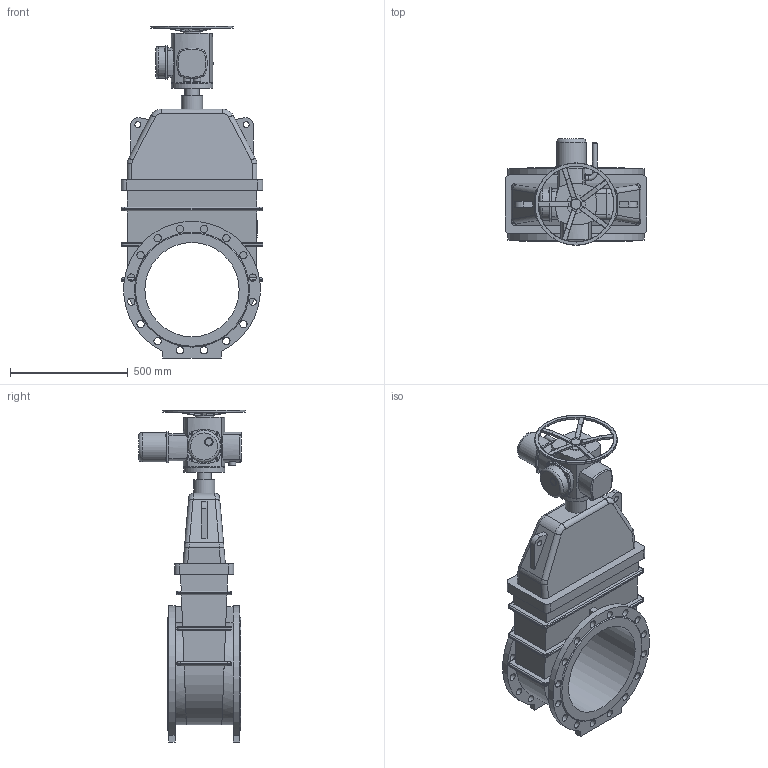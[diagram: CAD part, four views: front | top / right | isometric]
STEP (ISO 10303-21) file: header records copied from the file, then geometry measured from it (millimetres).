
FILE_DESCRIPTION(('STEP AP203'), '1');
FILE_NAME('青溻桄赅 47GVA DN400 PN16+MT903.Z30', '', ('UNSPECIFIED'), ('UNSPECIFIED'), 'ASCON STEP Converter 1.6', 'ASCON Math Kernel', '');
FILE_SCHEMA(('CONFIG_CONTROL_DESIGN'));
Length unit declared in the file: millimetre
Bounding box: 600 x 453 x 1409 mm (x, y, z)
Volume: 87088012.6 mm3; surface area: 3081801.4 mm2
Topology: 2 solids, 2 shells, 546 faces, 1326 edges, 819 vertices
Faces by surface type: cylinder 262, plane 218, bspline 34, torus 25, cone 7
Full cylindrical faces by diameter (mm): 10 x8, 13.835 x4, 18 x4, 20 x2, 25 x2, 29.22 x1, 30 x2, 31 x32, 34 x1, 36 x1, 40 x1, 60 x1, 80 x1, 90 x1, 100 x2, 125 x1, 135 x1, 175 x2, 350 x1, 400 x1
Entity records: 26906 total; most frequent: CARTESIAN_POINT 10688, ORIENTED_EDGE 2442, DIRECTION 2271, EDGE_CURVE 1221, AXIS2_PLACEMENT_3D 870, VERTEX_POINT 813, EDGE_LOOP 768, FACE_BOUND 579
